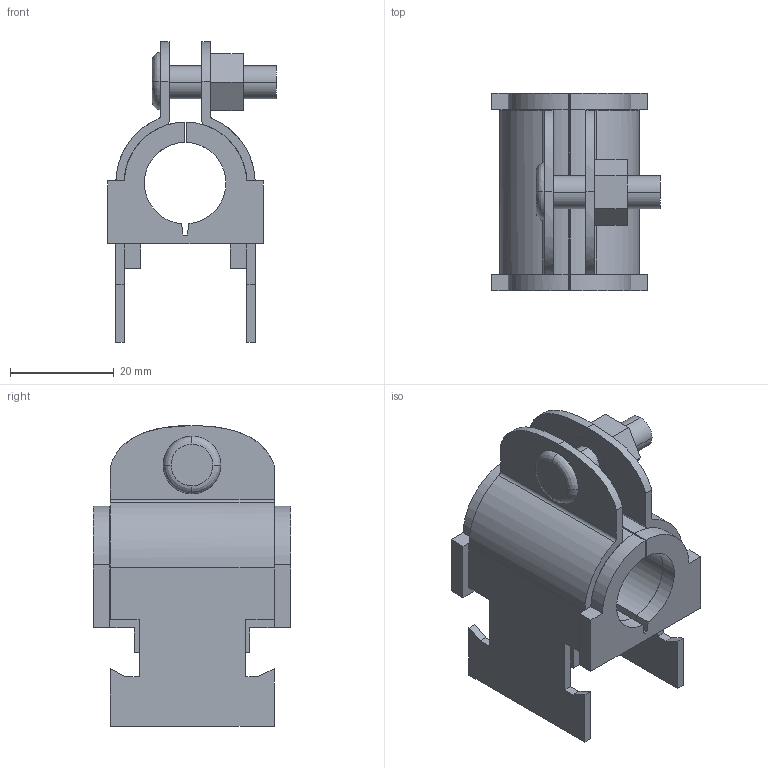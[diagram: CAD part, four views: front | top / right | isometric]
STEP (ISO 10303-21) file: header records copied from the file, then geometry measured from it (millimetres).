
FILE_DESCRIPTION(('TurboCAD Mac Pro'),'Build 980');
FILE_NAME('010N014.stp',' ',(''),(''),'ACIS Interop','IMSI','TurboCAD Mac Pro BY IMSI, INCORPORATED');
FILE_SCHEMA(('automotive_design'));
Length unit declared in the file: inch
Products named in the file (3): 1; 2; 3
Bounding box: 32.52 x 38.1 x 58.13 mm (x, y, z)
Volume: 19583.3 mm3; surface area: 15578 mm2
Topology: 3 solids, 3 shells, 150 faces, 403 edges, 264 vertices
Faces by surface type: plane 104, bspline 46
Entity records: 8382 total; most frequent: CARTESIAN_POINT 1796, ORIENTED_EDGE 806, STYLED_ITEM 540, PRESENTATION_STYLE_ASSIGNMENT 540, COLOUR_RGB 540, DIRECTION 499, EDGE_CURVE 403, CURVE_STYLE 387
